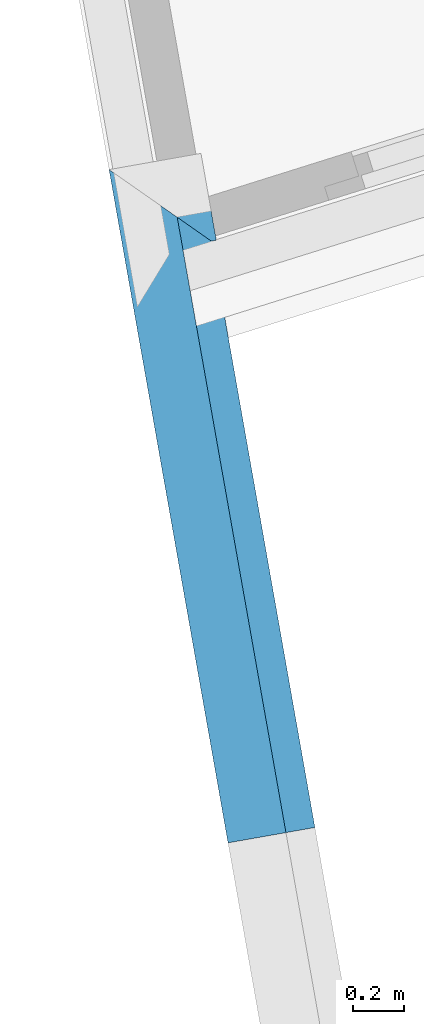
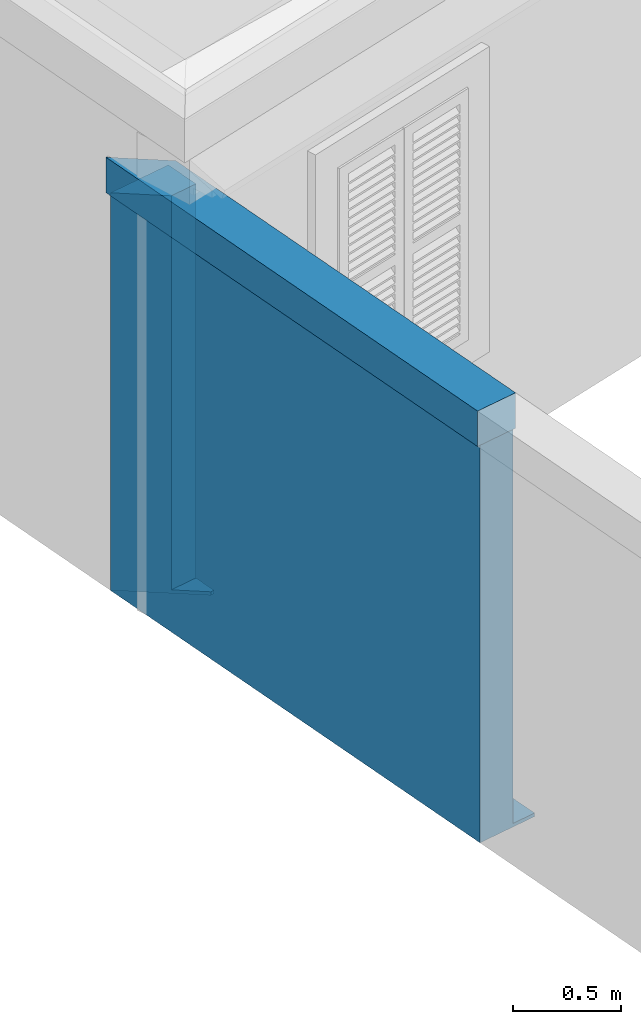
# One storey, part 5 of 13: 3 walls.
"""IFC4 building model written with IfcOpenShell, lengths in metres."""

from ifc_helpers import new_model, si_unit, frame, origin_with_axes, place, context, subcontext, project, spatial, polyline, outline, extrude, clip, halfspace, material_profile, profile_set, profile_usage, type_object, element, save


model = new_model("IFC4")

# Units and contexts
model_context = context("Model", 3, world=origin_with_axes())
body_context = subcontext(model_context, "Body", "Model", "MODEL_VIEW")
ifc_project = project(units=[si_unit("PLANEANGLEUNIT", "RADIAN"), si_unit("MASSUNIT", "GRAM", prefix="KILO"), si_unit("FORCEUNIT", "NEWTON", prefix="KILO"), si_unit("LENGTHUNIT", "METRE"), si_unit("AREAUNIT", "SQUARE_METRE"), si_unit("VOLUMEUNIT", "CUBIC_METRE")], contexts=[model_context, model_context])

# Site, building, storey
site_placement = place(None, origin_with_axes())
site = spatial("IfcSite", under=ifc_project, at=site_placement, Name="Site plot-0", CompositionType="ELEMENT")
building_placement = place(None, origin_with_axes())
building = spatial("IfcBuilding", under=site, at=building_placement, Name="Building plot-0", CompositionType="ELEMENT")
storey_placement = place(None, frame((0.0, 0.0, 3.6), z_axis=(0.0, 0.0, 1.0), x_axis=(1.0, 0.0, 0.0)))
storey = spatial("IfcBuildingStorey", under=building, at=storey_placement, Name="plot-0 1", CompositionType="ELEMENT", Elevation=3.6)

# Walls
ifc_material_profile_1 = material_profile(None, outline(polyline([(0.25, 0.0), (0.25, 2.245), (0.05, 2.245), (0.05, 0.02), (-0.08, 0.02), (-0.08, 0.0), (0.25, 0.0)])))
ifc_profile_set_1 = profile_set([ifc_material_profile_1])
ifc_profile_usage_1 = profile_usage(ifc_profile_set_1)
wall_type_1 = type_object("IfcWallType", Name="parapet party_0", PredefinedType="PARAPET", material=ifc_profile_set_1)
wall_1_placement = place(storey_placement, frame((-1.26505208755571, 10.0208407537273, 0.0), z_axis=(0.984743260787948, 0.174013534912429, 0.0), x_axis=(-0.174013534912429, 0.984743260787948, 0.0)))
element("IfcWall", 1, at=wall_1_placement, inside=storey, type_object=wall_type_1, material=ifc_profile_usage_1, Name="parapet party_0", context=body_context, shape_type="Clipping", body=[
    clip(clip(extrude(outline(polyline([(0.25, 0.0), (0.25, 2.245), (0.05, 2.245), (0.05, 0.02), (-0.08, 0.02), (-0.08, 0.0), (0.25, 0.0)])), origin_with_axes(), (0.0, 0.0, 1.0), 2.1), halfspace(frame((0.0, 0.0, 1.1), z_axis=(3.82856869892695e-16, 0.0, -1.0), x_axis=(0.0, 1.0, 0.0)), True)), halfspace(frame((0.0, 0.0, 1.0), z_axis=(-0.707106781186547, 0.0, -0.707106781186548), x_axis=(0.0, 1.0, 0.0)), False)),
])
ifc_profile_usage_2 = profile_usage(ifc_profile_set_1)
wall_2_placement = place(storey_placement, frame((0.312974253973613, 6.83746306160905, 0.0), z_axis=(-0.174013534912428, 0.984743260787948, 0.0), x_axis=(-0.984743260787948, -0.174013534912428, 0.0)))
element("IfcWall", 2, at=wall_2_placement, inside=storey, type_object=wall_type_1, material=ifc_profile_usage_2, Name="parapet party_0", context=body_context, shape_type="Clipping", body=[
    clip(clip(extrude(outline(polyline([(0.25, 0.0), (0.25, 2.245), (0.05, 2.245), (0.05, 0.02), (-0.08, 0.02), (-0.08, 0.0), (0.25, 0.0)])), origin_with_axes(), (0.0, 0.0, 1.0), 4.40940767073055), halfspace(frame((0.0, 0.0, 3.40940767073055), z_axis=(0.707106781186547, 0.0, -0.707106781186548), x_axis=(0.0, 1.0, 0.0)), True)), halfspace(frame((0.0, 0.0, 1.0), z_axis=(1.60812264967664e-16, 0.0, -1.0), x_axis=(0.0, 1.0, 0.0)), False)),
])
ifc_material_profile_2 = material_profile(None, outline(polyline([(0.265, 2.245), (0.265, 2.445), (0.035, 2.445), (0.035, 2.245), (0.265, 2.245)])))
ifc_profile_set_2 = profile_set([ifc_material_profile_2])
ifc_profile_usage_3 = profile_usage(ifc_profile_set_2)
wall_type_2 = type_object("IfcWallType", Name="parapet party_1", PredefinedType="PARAPET", material=ifc_profile_set_2)
wall_3_placement = place(storey_placement, frame((0.312974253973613, 6.83746306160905, 0.0), z_axis=(-0.174013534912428, 0.984743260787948, 0.0), x_axis=(-0.984743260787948, -0.174013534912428, 0.0)))
element("IfcWall", 3, at=wall_3_placement, inside=storey, type_object=wall_type_2, material=ifc_profile_usage_3, Name="parapet party_1", context=body_context, shape_type="Clipping", body=[
    clip(clip(extrude(outline(polyline([(0.265, 2.245), (0.265, 2.445), (0.035, 2.445), (0.035, 2.245), (0.265, 2.245)])), origin_with_axes(), (0.0, 0.0, 1.0), 4.40940767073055), halfspace(frame((0.0, 0.0, 3.40940767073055), z_axis=(0.707106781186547, 0.0, -0.707106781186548), x_axis=(0.0, 1.0, 0.0)), True)), halfspace(frame((0.0, 0.0, 1.0), z_axis=(1.60812264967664e-16, 0.0, -1.0), x_axis=(0.0, 1.0, 0.0)), False)),
])

save(model, "model.ifc")
